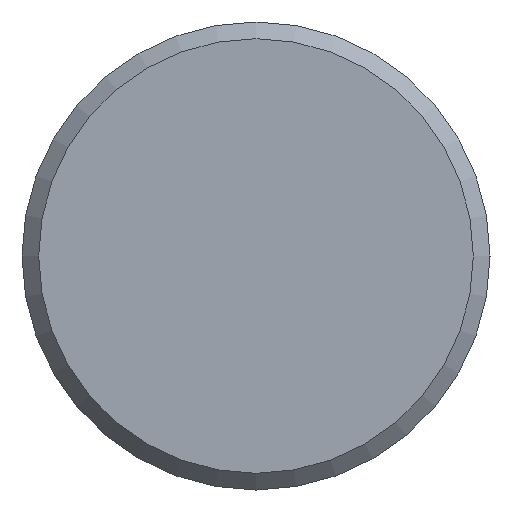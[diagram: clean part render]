
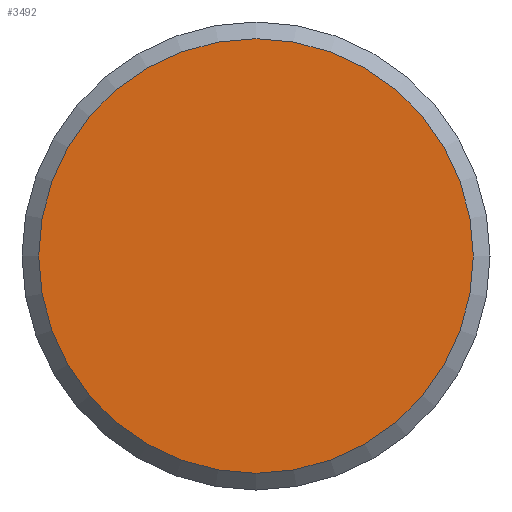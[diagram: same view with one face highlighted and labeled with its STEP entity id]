
A CAD part, left-side view. The second image highlights one B-rep face of the part: STEP entity #3492.
In plain terms, the highlighted planar face has unit normal (-1, 0, 0).
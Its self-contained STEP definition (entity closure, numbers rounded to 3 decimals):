
#1258=PLANE('',#3215);
#1308=ORIENTED_EDGE('',*,*,#1776,.F.);
#1540=CIRCLE('',#3214,6.5);
#1658=VERTEX_POINT('',#2857);
#1776=EDGE_CURVE('',#1658,#1658,#1540,.T.);
#1898=EDGE_LOOP('',(#1308));
#2134=FACE_BOUND('',#1898,.T.);
#2377=DIRECTION('',(1.,0.,0.));
#2378=DIRECTION('',(0.,-6.5,0.));
#2379=DIRECTION('',(-1.,0.,0.));
#2380=DIRECTION('',(0.,1.,0.));
#2857=CARTESIAN_POINT('',(44.231,159.015,0.));
#2858=CARTESIAN_POINT('',(44.231,165.515,0.));
#2859=CARTESIAN_POINT('',(44.231,165.515,0.));
#3214=AXIS2_PLACEMENT_3D('',#2858,#2377,#2378);
#3215=AXIS2_PLACEMENT_3D('',#2859,#2379,#2380);
#3492=ADVANCED_FACE('',(#2134),#1258,.T.);
